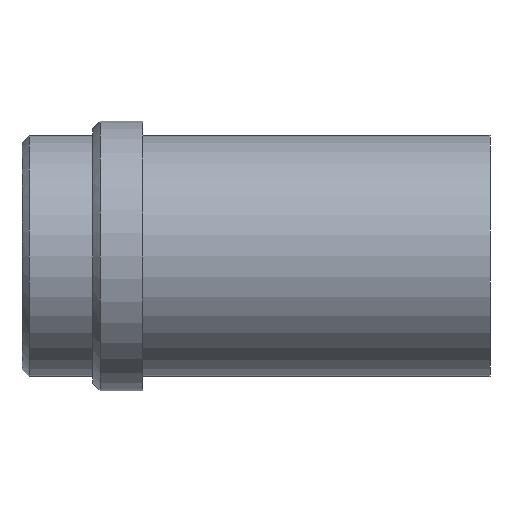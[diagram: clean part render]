
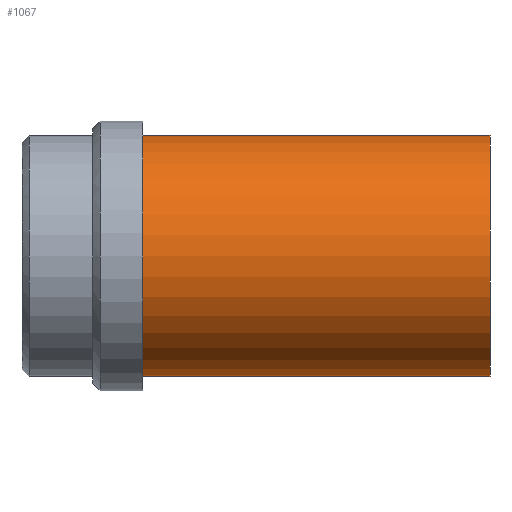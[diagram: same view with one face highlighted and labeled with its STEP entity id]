
A CAD part, front view. The second image highlights one B-rep face of the part: STEP entity #1067.
In plain terms, the highlighted cylindrical face has radius 17 mm (diameter 34 mm), a partial arc.
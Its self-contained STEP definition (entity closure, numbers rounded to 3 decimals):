
#953=CARTESIAN_POINT('Vertex',(0.,0.,-17.)) ;
#958=CARTESIAN_POINT('Axis2P3D Location',(0.,0.,0.)) ;
#962=CARTESIAN_POINT('Vertex',(0.,-17.,0.)) ;
#965=CARTESIAN_POINT('Axis2P3D Location',(0.,0.,0.)) ;
#969=CARTESIAN_POINT('Vertex',(0.,0.,17.)) ;
#995=CARTESIAN_POINT('Vertex',(49.,0.,17.)) ;
#998=CARTESIAN_POINT('Axis2P3D Location',(49.,0.,0.)) ;
#1002=CARTESIAN_POINT('Vertex',(49.,-17.,0.)) ;
#1005=CARTESIAN_POINT('Axis2P3D Location',(49.,0.,0.)) ;
#1009=CARTESIAN_POINT('Vertex',(49.,0.,-17.)) ;
#1035=CARTESIAN_POINT('Line Origine',(49.,0.,17.)) ;
#1040=CARTESIAN_POINT('Line Origine',(49.,0.,-17.)) ;
#1054=CARTESIAN_POINT('Axis2P3D Location',(49.,0.,0.)) ;
#959=DIRECTION('Axis2P3D Direction',(1.,0.,-0.)) ;
#966=DIRECTION('Axis2P3D Direction',(1.,0.,-0.)) ;
#999=DIRECTION('Axis2P3D Direction',(1.,0.,-0.)) ;
#1006=DIRECTION('Axis2P3D Direction',(1.,0.,-0.)) ;
#1036=DIRECTION('Vector Direction',(-1.,0.,0.)) ;
#1041=DIRECTION('Vector Direction',(-1.,0.,0.)) ;
#1055=DIRECTION('Axis2P3D Direction',(-1.,-0.,-0.)) ;
#1056=DIRECTION('Axis2P3D XDirection',(0.,0.,-1.)) ;
#960=AXIS2_PLACEMENT_3D('Circle Axis2P3D',#958,#959,$) ;
#967=AXIS2_PLACEMENT_3D('Circle Axis2P3D',#965,#966,$) ;
#1000=AXIS2_PLACEMENT_3D('Circle Axis2P3D',#998,#999,$) ;
#1007=AXIS2_PLACEMENT_3D('Circle Axis2P3D',#1005,#1006,$) ;
#1057=AXIS2_PLACEMENT_3D('Cylinder Axis2P3D',#1054,#1055,#1056) ;
#1060=ORIENTED_EDGE('',*,*,#1044,.T.) ;
#1061=ORIENTED_EDGE('',*,*,#1011,.F.) ;
#1062=ORIENTED_EDGE('',*,*,#1004,.F.) ;
#1063=ORIENTED_EDGE('',*,*,#1039,.T.) ;
#1064=ORIENTED_EDGE('',*,*,#971,.T.) ;
#1065=ORIENTED_EDGE('',*,*,#964,.T.) ;
#1037=VECTOR('Line Direction',#1036,1.) ;
#1042=VECTOR('Line Direction',#1041,1.) ;
#1067=ADVANCED_FACE('358-25X66',(#1066),#1058,.T.) ;
#961=CIRCLE('generated circle',#960,17.) ;
#968=CIRCLE('generated circle',#967,17.) ;
#1001=CIRCLE('generated circle',#1000,17.) ;
#1008=CIRCLE('generated circle',#1007,17.) ;
#1058=CYLINDRICAL_SURFACE('generated cylinder',#1057,17.) ;
#964=EDGE_CURVE('',#963,#954,#961,.T.) ;
#971=EDGE_CURVE('',#970,#963,#968,.T.) ;
#1004=EDGE_CURVE('',#996,#1003,#1001,.T.) ;
#1011=EDGE_CURVE('',#1003,#1010,#1008,.T.) ;
#1039=EDGE_CURVE('',#996,#970,#1038,.T.) ;
#1044=EDGE_CURVE('',#954,#1010,#1043,.F.) ;
#1059=EDGE_LOOP('',(#1060,#1061,#1062,#1063,#1064,#1065)) ;
#1066=FACE_OUTER_BOUND('',#1059,.T.) ;
#1038=LINE('Line',#1035,#1037) ;
#1043=LINE('Line',#1040,#1042) ;
#954=VERTEX_POINT('',#953) ;
#963=VERTEX_POINT('',#962) ;
#970=VERTEX_POINT('',#969) ;
#996=VERTEX_POINT('',#995) ;
#1003=VERTEX_POINT('',#1002) ;
#1010=VERTEX_POINT('',#1009) ;
